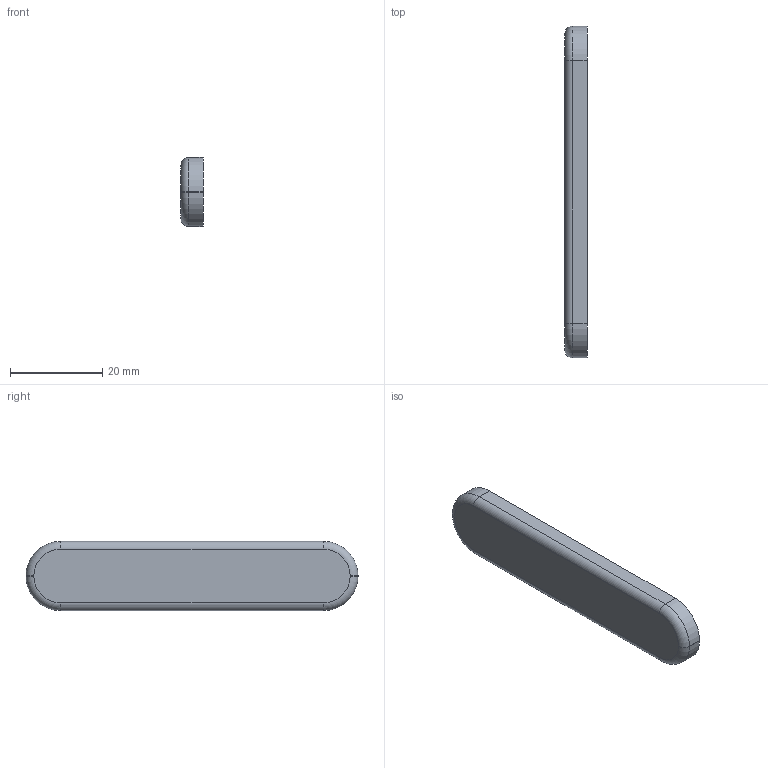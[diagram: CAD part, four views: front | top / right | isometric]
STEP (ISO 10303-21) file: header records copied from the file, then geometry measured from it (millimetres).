
FILE_DESCRIPTION(/* description */ (''),/* implementation_level */ '2;1');
FILE_NAME(/* name */ '04_PTT_paddle.step',/* time_stamp */ '2026-09-08T11:10:42-07:00',/* author */ (''),/* organization */ (''),/* preprocessor_version */ 'ST-DEVELOPER v20.1',/* originating_system */ 'Autodesk Translation Framework v15.8.0.0',/* authorisation */ '');
FILE_SCHEMA (('AUTOMOTIVE_DESIGN { 1 0 10303 214 3 1 1 }'));
Length unit declared in the file: centimetre
Products named in the file (1): 2026-09-08-11-10-42-322
Bounding box: 4.8 x 72 x 15 mm (x, y, z)
Volume: 4854.4 mm3; surface area: 2718.3 mm2
Topology: 1 solids, 1 shells, 18 faces, 40 edges, 24 vertices
Faces by surface type: cylinder 8, plane 6, torus 4
Entity records: 540 total; most frequent: DIRECTION 98, CARTESIAN_POINT 83, ORIENTED_EDGE 80, EDGE_CURVE 40, AXIS2_PLACEMENT_3D 39, VERTEX_POINT 24, LINE 20, VECTOR 20
